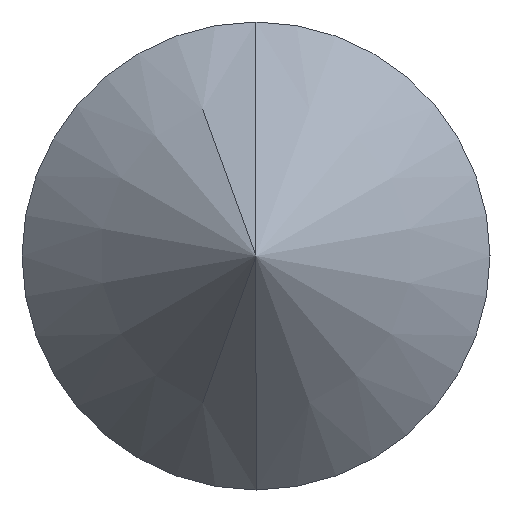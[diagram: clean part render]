
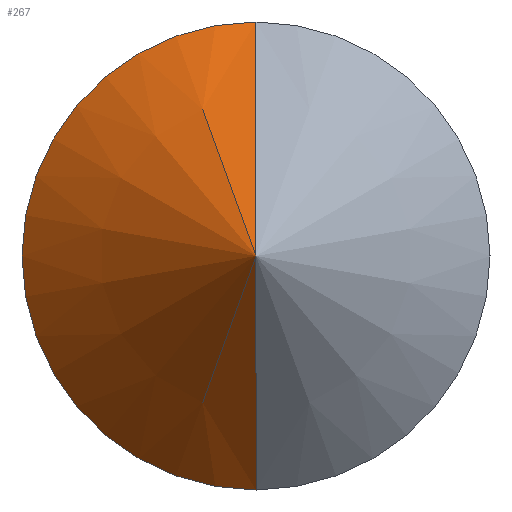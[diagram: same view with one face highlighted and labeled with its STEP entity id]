
A CAD part, left-side view. The second image highlights one B-rep face of the part: STEP entity #267.
In plain terms, the highlighted conical face has half-angle 45 degrees and reference radius 0.58 mm.
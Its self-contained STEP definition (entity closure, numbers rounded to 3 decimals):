
#54 = DIRECTION ( 'NONE',  ( 0.707, 0., -0.707 ) ) ;
#79 = AXIS2_PLACEMENT_3D ( 'NONE', #242, #243, #244 ) ;
#84 = VECTOR ( 'NONE', #148, 1000. ) ;
#102 = CONICAL_SURFACE ( 'NONE', #109, 0.58, 0.785 ) ;
#109 = AXIS2_PLACEMENT_3D ( 'NONE', #249, #247, #250 ) ;
#111 = VECTOR ( 'NONE', #54, 1000. ) ;
#126 = CIRCLE ( 'NONE', #79, 0.58 ) ;
#141 = CARTESIAN_POINT ( 'NONE',  ( -2.59, 0., 0.58 ) ) ;
#144 = LINE ( 'NONE', #141, #84 ) ;
#148 = DIRECTION ( 'NONE',  ( 0.707, 0., 0.707 ) ) ;
#176 = CARTESIAN_POINT ( 'NONE',  ( -2.59, 0., -0.58 ) ) ;
#194 = EDGE_LOOP ( 'NONE', ( #371, #372, #310 ) ) ;
#214 = CARTESIAN_POINT ( 'NONE',  ( -2.59, 0., 0.58 ) ) ;
#215 = CARTESIAN_POINT ( 'NONE',  ( -3.17, 0., 0. ) ) ;
#221 = CARTESIAN_POINT ( 'NONE',  ( -2.59, 0., -0.58 ) ) ;
#232 = LINE ( 'NONE', #176, #111 ) ;
#242 = CARTESIAN_POINT ( 'NONE',  ( -2.59, 0., 0. ) ) ;
#243 = DIRECTION ( 'NONE',  ( 1., 0., 0. ) ) ;
#244 = DIRECTION ( 'NONE',  ( 0., 0., -1. ) ) ;
#246 = FACE_OUTER_BOUND ( 'NONE', #194, .T. ) ;
#247 = DIRECTION ( 'NONE',  ( 1., 0., 0. ) ) ;
#249 = CARTESIAN_POINT ( 'NONE',  ( -2.59, 0., 0. ) ) ;
#250 = DIRECTION ( 'NONE',  ( 0., 0., -1. ) ) ;
#267 = ADVANCED_FACE ( 'NONE', ( #246 ), #102, .T. ) ;
#310 = ORIENTED_EDGE ( 'NONE', *, *, #381, .F. ) ;
#371 = ORIENTED_EDGE ( 'NONE', *, *, #382, .F. ) ;
#372 = ORIENTED_EDGE ( 'NONE', *, *, #386, .T. ) ;
#381 = EDGE_CURVE ( 'NONE', #405, #402, #126, .T. ) ;
#382 = EDGE_CURVE ( 'NONE', #401, #405, #232, .T. ) ;
#386 = EDGE_CURVE ( 'NONE', #401, #402, #144, .T. ) ;
#401 = VERTEX_POINT ( 'NONE', #215 ) ;
#402 = VERTEX_POINT ( 'NONE', #214 ) ;
#405 = VERTEX_POINT ( 'NONE', #221 ) ;
